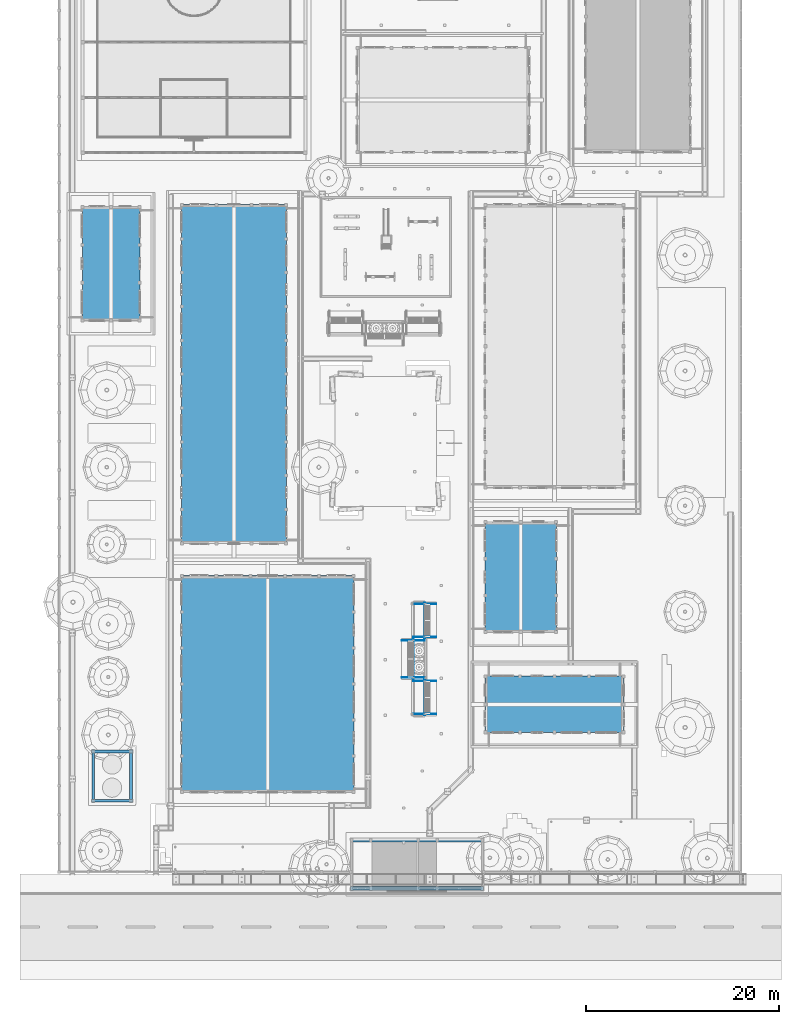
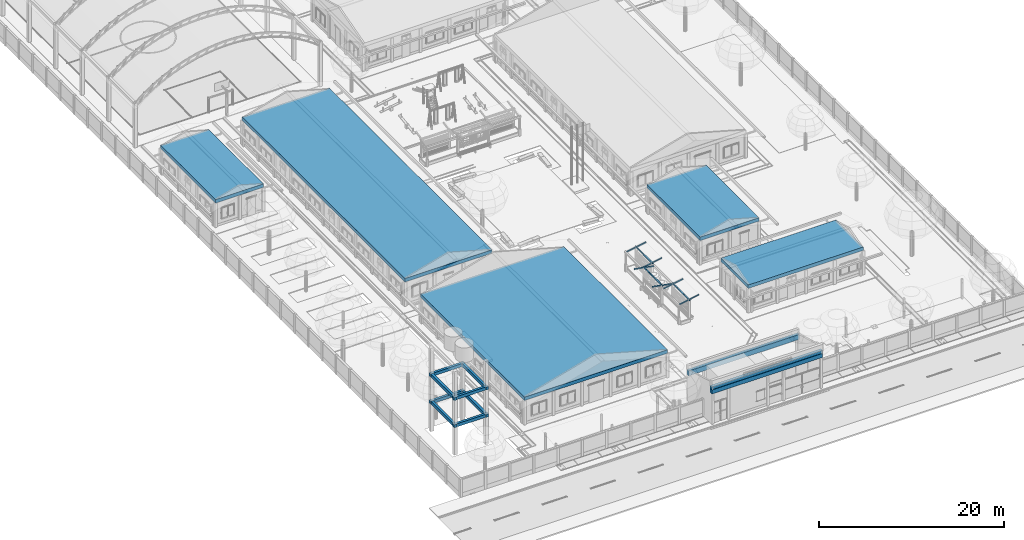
# One storey, part 15 of 177: 25 beams.
"""IFC4 building model written with IfcOpenShell, lengths in metres."""

from ifc_helpers import new_model, si_unit, origin, origin_with_axes, place, context, subcontext, project, spatial, triangles, element, save


model = new_model("IFC4")

# Units and contexts
model_context = context("Model", 3, precision=1e-05, world=origin_with_axes())
body_context = subcontext(model_context, "Body", "Model", "MODEL_VIEW")
ifc_project = project(units=[si_unit("LENGTHUNIT", "METRE"), si_unit("AREAUNIT", "SQUARE_METRE"), si_unit("VOLUMEUNIT", "CUBIC_METRE"), si_unit("PLANEANGLEUNIT", "RADIAN")], contexts=[model_context])

# Site, building, storey
site_placement = place(None, origin_with_axes())
site = spatial("IfcSite", under=ifc_project, at=site_placement, Name="Predio Los Mangos - Morales, San Martín", CompositionType="ELEMENT")
building_placement = place(site_placement, origin())
building = spatial("IfcBuilding", under=site, at=building_placement, Name="Hogar de Refugio Temporal", CompositionType="ELEMENT")
storey_placement = place(building_placement, origin())
storey = spatial("IfcBuildingStorey", under=building, at=storey_placement, Name="NIVEL 1 (NPT +0.00)", CompositionType="ELEMENT", Elevation=0.0)

# Beams
beam_1_placement = place(storey_placement, origin())
element("IfcBeam", 1, at=beam_1_placement, inside=storey, Name="E-01_viga", ObjectType="Viga", PredefinedType="BEAM", context=body_context, shape_type="Tessellation", body=[
    triangles([(13.76, 26.26, 3.3), (31.64, 26.26, 3.3), (31.64, 48.74, 3.3), (13.76, 48.74, 3.3), (13.76, 26.26, 3.75), (31.64, 26.26, 3.75), (31.64, 48.74, 3.75), (13.76, 48.74, 3.75)], [[1, 4, 3], [1, 3, 2], [5, 6, 7], [5, 7, 8], [1, 2, 6], [1, 6, 5], [2, 3, 7], [2, 7, 6], [3, 4, 8], [3, 8, 7], [4, 1, 5], [4, 5, 8]]),
])
beam_2_placement = place(storey_placement, origin())
element("IfcBeam", 2, at=beam_2_placement, inside=storey, Name="E-02_viga", ObjectType="Viga", PredefinedType="BEAM", context=body_context, shape_type="Tessellation", body=[
    triangles([(45.26, 42.86, 3.3), (52.64, 42.86, 3.3), (52.64, 54.34, 3.3), (45.26, 54.34, 3.3), (45.26, 42.86, 3.75), (52.64, 42.86, 3.75), (52.64, 54.34, 3.75), (45.26, 54.34, 3.75)], [[1, 4, 3], [1, 3, 2], [5, 6, 7], [5, 7, 8], [1, 2, 6], [1, 6, 5], [2, 3, 7], [2, 7, 6], [3, 4, 8], [3, 8, 7], [4, 1, 5], [4, 5, 8]]),
])
beam_3_placement = place(storey_placement, origin())
element("IfcBeam", 3, at=beam_3_placement, inside=storey, Name="E-03_viga", ObjectType="Viga", PredefinedType="BEAM", context=body_context, shape_type="Tessellation", body=[
    triangles([(45.26, 32.46, 3.3), (59.64, 32.46, 3.3), (59.64, 38.34, 3.3), (45.26, 38.34, 3.3), (45.26, 32.46, 3.75), (59.64, 32.46, 3.75), (59.64, 38.34, 3.75), (45.26, 38.34, 3.75)], [[1, 4, 3], [1, 3, 2], [5, 6, 7], [5, 7, 8], [1, 2, 6], [1, 6, 5], [2, 3, 7], [2, 7, 6], [3, 4, 8], [3, 8, 7], [4, 1, 5], [4, 5, 8]]),
])
beam_4_placement = place(storey_placement, origin())
element("IfcBeam", 4, at=beam_4_placement, inside=storey, Name="E-04_viga", ObjectType="Viga", PredefinedType="BEAM", context=body_context, shape_type="Tessellation", body=[
    triangles([(13.76, 52.06, 3.3), (24.64, 52.06, 3.3), (24.64, 87.24, 3.3), (13.76, 87.24, 3.3), (13.76, 52.06, 3.75), (24.64, 52.06, 3.75), (24.64, 87.24, 3.75), (13.76, 87.24, 3.75)], [[1, 4, 3], [1, 3, 2], [5, 6, 7], [5, 7, 8], [1, 2, 6], [1, 6, 5], [2, 3, 7], [2, 7, 6], [3, 4, 8], [3, 8, 7], [4, 1, 5], [4, 5, 8]]),
])
beam_5_placement = place(storey_placement, origin())
element("IfcBeam", 5, at=beam_5_placement, inside=storey, Name="E-09_viga", ObjectType="Viga", PredefinedType="BEAM", context=body_context, shape_type="Tessellation", body=[
    triangles([(3.46, 75.16, 3.3), (9.44, 75.16, 3.3), (9.44, 87.04, 3.3), (3.46, 87.04, 3.3), (3.46, 75.16, 3.75), (9.44, 75.16, 3.75), (9.44, 87.04, 3.75), (3.46, 87.04, 3.75)], [[1, 4, 3], [1, 3, 2], [5, 6, 7], [5, 7, 8], [1, 2, 6], [1, 6, 5], [2, 3, 7], [2, 7, 6], [3, 4, 8], [3, 8, 7], [4, 1, 5], [4, 5, 8]]),
])
beam_6_placement = place(storey_placement, origin())
element("IfcBeam", 6, at=beam_6_placement, inside=storey, Name="oe01_viga", ObjectType="Viga", PredefinedType="BEAM", context=body_context, shape_type="Tessellation", body=[
    triangles([(31.3, 16.1, 4.18), (45.1, 16.1, 4.18), (45.1, 16.5, 4.18), (31.3, 16.5, 4.18), (31.3, 16.1, 4.71), (45.1, 16.1, 4.71), (45.1, 16.5, 4.71), (31.3, 16.5, 4.71)], [[1, 4, 3], [1, 3, 2], [5, 6, 7], [5, 7, 8], [1, 2, 6], [1, 6, 5], [2, 3, 7], [2, 7, 6], [3, 4, 8], [3, 8, 7], [4, 1, 5], [4, 5, 8]]),
])
beam_7_placement = place(storey_placement, origin())
element("IfcBeam", 7, at=beam_7_placement, inside=storey, Name="oe01_cielo", ObjectType="Viga", PredefinedType="BEAM", context=body_context, shape_type="Tessellation", body=[
    triangles([(31.3, 16.15, 4.71), (45.1, 16.15, 4.71), (45.1, 16.5, 4.71), (31.3, 16.5, 4.71), (31.3, 16.15, 5.09), (45.1, 16.15, 5.09), (45.1, 16.5, 5.09), (31.3, 16.5, 5.09)], [[1, 4, 3], [1, 3, 2], [5, 6, 7], [5, 7, 8], [1, 2, 6], [1, 6, 5], [2, 3, 7], [2, 7, 6], [3, 4, 8], [3, 8, 7], [4, 1, 5], [4, 5, 8]]),
])
beam_8_placement = place(storey_placement, origin())
element("IfcBeam", 8, at=beam_8_placement, inside=storey, Name="oe01_viga_post", ObjectType="Viga", PredefinedType="BEAM", context=body_context, shape_type="Tessellation", body=[
    triangles([(31.3, 21.1, 3.55), (45.1, 21.1, 3.55), (45.1, 21.5, 3.55), (31.3, 21.5, 3.55), (31.3, 21.1, 4.19), (45.1, 21.1, 4.19), (45.1, 21.5, 4.19), (31.3, 21.5, 4.19)], [[1, 4, 3], [1, 3, 2], [5, 6, 7], [5, 7, 8], [1, 2, 6], [1, 6, 5], [2, 3, 7], [2, 7, 6], [3, 4, 8], [3, 8, 7], [4, 1, 5], [4, 5, 8]]),
])
beam_9_placement = place(storey_placement, origin())
element("IfcBeam", 9, at=beam_9_placement, inside=storey, Name="tanque_viga", ObjectType="Viga", PredefinedType="BEAM", context=body_context, shape_type="Tessellation", body=[
    triangles([(4.4, 25.25, 3.6), (8.7, 25.25, 3.6), (8.7, 25.55, 3.6), (4.4, 25.55, 3.6), (4.4, 25.25, 4.0), (8.7, 25.25, 4.0), (8.7, 25.55, 4.0), (4.4, 25.55, 4.0)], [[1, 4, 3], [1, 3, 2], [5, 6, 7], [5, 7, 8], [1, 2, 6], [1, 6, 5], [2, 3, 7], [2, 7, 6], [3, 4, 8], [3, 8, 7], [4, 1, 5], [4, 5, 8]]),
])
beam_10_placement = place(storey_placement, origin())
element("IfcBeam", 10, at=beam_10_placement, inside=storey, Name="tanque_viga", ObjectType="Viga", PredefinedType="BEAM", context=body_context, shape_type="Tessellation", body=[
    triangles([(4.4, 30.35, 3.6), (8.7, 30.35, 3.6), (8.7, 30.65, 3.6), (4.4, 30.65, 3.6), (4.4, 30.35, 4.0), (8.7, 30.35, 4.0), (8.7, 30.65, 4.0), (4.4, 30.65, 4.0)], [[1, 4, 3], [1, 3, 2], [5, 6, 7], [5, 7, 8], [1, 2, 6], [1, 6, 5], [2, 3, 7], [2, 7, 6], [3, 4, 8], [3, 8, 7], [4, 1, 5], [4, 5, 8]]),
])
beam_11_placement = place(storey_placement, origin())
element("IfcBeam", 11, at=beam_11_placement, inside=storey, Name="tanque_viga", ObjectType="Viga", PredefinedType="BEAM", context=body_context, shape_type="Tessellation", body=[
    triangles([(4.45, 25.2, 3.6), (4.75, 25.2, 3.6), (4.75, 30.7, 3.6), (4.45, 30.7, 3.6), (4.45, 25.2, 4.0), (4.75, 25.2, 4.0), (4.75, 30.7, 4.0), (4.45, 30.7, 4.0)], [[1, 4, 3], [1, 3, 2], [5, 6, 7], [5, 7, 8], [1, 2, 6], [1, 6, 5], [2, 3, 7], [2, 7, 6], [3, 4, 8], [3, 8, 7], [4, 1, 5], [4, 5, 8]]),
])
beam_12_placement = place(storey_placement, origin())
element("IfcBeam", 12, at=beam_12_placement, inside=storey, Name="tanque_viga", ObjectType="Viga", PredefinedType="BEAM", context=body_context, shape_type="Tessellation", body=[
    triangles([(8.35, 25.2, 3.6), (8.65, 25.2, 3.6), (8.65, 30.7, 3.6), (8.35, 30.7, 3.6), (8.35, 25.2, 4.0), (8.65, 25.2, 4.0), (8.65, 30.7, 4.0), (8.35, 30.7, 4.0)], [[1, 4, 3], [1, 3, 2], [5, 6, 7], [5, 7, 8], [1, 2, 6], [1, 6, 5], [2, 3, 7], [2, 7, 6], [3, 4, 8], [3, 8, 7], [4, 1, 5], [4, 5, 8]]),
])
beam_13_placement = place(storey_placement, origin())
element("IfcBeam", 13, at=beam_13_placement, inside=storey, Name="tanque_viga", ObjectType="Viga", PredefinedType="BEAM", context=body_context, shape_type="Tessellation", body=[
    triangles([(4.4, 25.25, 7.2), (8.7, 25.25, 7.2), (8.7, 25.55, 7.2), (4.4, 25.55, 7.2), (4.4, 25.25, 7.6), (8.7, 25.25, 7.6), (8.7, 25.55, 7.6), (4.4, 25.55, 7.6)], [[1, 4, 3], [1, 3, 2], [5, 6, 7], [5, 7, 8], [1, 2, 6], [1, 6, 5], [2, 3, 7], [2, 7, 6], [3, 4, 8], [3, 8, 7], [4, 1, 5], [4, 5, 8]]),
])
beam_14_placement = place(storey_placement, origin())
element("IfcBeam", 14, at=beam_14_placement, inside=storey, Name="tanque_viga", ObjectType="Viga", PredefinedType="BEAM", context=body_context, shape_type="Tessellation", body=[
    triangles([(4.4, 30.35, 7.2), (8.7, 30.35, 7.2), (8.7, 30.65, 7.2), (4.4, 30.65, 7.2), (4.4, 30.35, 7.6), (8.7, 30.35, 7.6), (8.7, 30.65, 7.6), (4.4, 30.65, 7.6)], [[1, 4, 3], [1, 3, 2], [5, 6, 7], [5, 7, 8], [1, 2, 6], [1, 6, 5], [2, 3, 7], [2, 7, 6], [3, 4, 8], [3, 8, 7], [4, 1, 5], [4, 5, 8]]),
])
beam_15_placement = place(storey_placement, origin())
element("IfcBeam", 15, at=beam_15_placement, inside=storey, Name="tanque_viga", ObjectType="Viga", PredefinedType="BEAM", context=body_context, shape_type="Tessellation", body=[
    triangles([(4.45, 25.2, 7.2), (4.75, 25.2, 7.2), (4.75, 30.7, 7.2), (4.45, 30.7, 7.2), (4.45, 25.2, 7.6), (4.75, 25.2, 7.6), (4.75, 30.7, 7.6), (4.45, 30.7, 7.6)], [[1, 4, 3], [1, 3, 2], [5, 6, 7], [5, 7, 8], [1, 2, 6], [1, 6, 5], [2, 3, 7], [2, 7, 6], [3, 4, 8], [3, 8, 7], [4, 1, 5], [4, 5, 8]]),
])
beam_16_placement = place(storey_placement, origin())
element("IfcBeam", 16, at=beam_16_placement, inside=storey, Name="tanque_viga", ObjectType="Viga", PredefinedType="BEAM", context=body_context, shape_type="Tessellation", body=[
    triangles([(8.35, 25.2, 7.2), (8.65, 25.2, 7.2), (8.65, 30.7, 7.2), (8.35, 30.7, 7.2), (8.35, 25.2, 7.6), (8.65, 25.2, 7.6), (8.65, 30.7, 7.6), (8.35, 30.7, 7.6)], [[1, 4, 3], [1, 3, 2], [5, 6, 7], [5, 7, 8], [1, 2, 6], [1, 6, 5], [2, 3, 7], [2, 7, 6], [3, 4, 8], [3, 8, 7], [4, 1, 5], [4, 5, 8]]),
])
beam_17_placement = place(storey_placement, origin())
element("IfcBeam", 17, at=beam_17_placement, inside=storey, Name="oc01_viga", ObjectType="Viga", PredefinedType="BEAM", context=body_context, shape_type="Tessellation", body=[
    triangles([(39.05, 34.255, 2.81), (39.05, 37.945, 2.81), (38.95, 37.945, 2.81), (38.95, 34.255, 2.81), (39.05, 34.255, 2.93), (39.05, 37.945, 2.93), (38.95, 37.945, 2.93), (38.95, 34.255, 2.93)], [[1, 4, 3], [1, 3, 2], [5, 6, 7], [5, 7, 8], [1, 2, 6], [1, 6, 5], [2, 3, 7], [2, 7, 6], [3, 4, 8], [3, 8, 7], [4, 1, 5], [4, 5, 8]]),
])
beam_18_placement = place(storey_placement, origin())
element("IfcBeam", 18, at=beam_18_placement, inside=storey, Name="oc01_correa", ObjectType="Viga", PredefinedType="BEAM", context=body_context, shape_type="Tessellation", body=[
    triangles([(37.8094, 34.36, 2.5909), (40.2094, 34.36, 3.0509), (40.2094, 34.41, 3.0509), (37.8094, 34.41, 2.5909), (37.7906, 34.36, 2.6891), (40.1906, 34.36, 3.1491), (40.1906, 34.41, 3.1491), (37.7906, 34.41, 2.6891)], [[1, 4, 3], [1, 3, 2], [5, 6, 7], [5, 7, 8], [1, 2, 6], [1, 6, 5], [2, 3, 7], [2, 7, 6], [3, 4, 8], [3, 8, 7], [4, 1, 5], [4, 5, 8]]),
])
beam_19_placement = place(storey_placement, origin())
element("IfcBeam", 19, at=beam_19_placement, inside=storey, Name="oc01_correa", ObjectType="Viga", PredefinedType="BEAM", context=body_context, shape_type="Tessellation", body=[
    triangles([(37.8094, 37.79, 2.5909), (40.2094, 37.79, 3.0509), (40.2094, 37.84, 3.0509), (37.8094, 37.84, 2.5909), (37.7906, 37.79, 2.6891), (40.1906, 37.79, 3.1491), (40.1906, 37.84, 3.1491), (37.7906, 37.84, 2.6891)], [[1, 4, 3], [1, 3, 2], [5, 6, 7], [5, 7, 8], [1, 2, 6], [1, 6, 5], [2, 3, 7], [2, 7, 6], [3, 4, 8], [3, 8, 7], [4, 1, 5], [4, 5, 8]]),
])
beam_20_placement = place(storey_placement, origin())
element("IfcBeam", 20, at=beam_20_placement, inside=storey, Name="oc01_viga", ObjectType="Viga", PredefinedType="BEAM", context=body_context, shape_type="Tessellation", body=[
    triangles([(37.85, 38.045, 2.81), (37.85, 42.155, 2.81), (37.75, 42.155, 2.81), (37.75, 38.045, 2.81), (37.85, 38.045, 2.93), (37.85, 42.155, 2.93), (37.75, 42.155, 2.93), (37.75, 38.045, 2.93)], [[1, 4, 3], [1, 3, 2], [5, 6, 7], [5, 7, 8], [1, 2, 6], [1, 6, 5], [2, 3, 7], [2, 7, 6], [3, 4, 8], [3, 8, 7], [4, 1, 5], [4, 5, 8]]),
])
beam_21_placement = place(storey_placement, origin())
element("IfcBeam", 21, at=beam_21_placement, inside=storey, Name="oc01_correa", ObjectType="Viga", PredefinedType="BEAM", context=body_context, shape_type="Tessellation", body=[
    triangles([(38.9906, 38.2, 2.5909), (36.5906, 38.2, 3.0509), (36.5906, 38.15, 3.0509), (38.9906, 38.15, 2.5909), (39.0094, 38.2, 2.6891), (36.6094, 38.2, 3.1491), (36.6094, 38.15, 3.1491), (39.0094, 38.15, 2.6891)], [[1, 4, 3], [1, 3, 2], [5, 6, 7], [5, 7, 8], [1, 2, 6], [1, 6, 5], [2, 3, 7], [2, 7, 6], [3, 4, 8], [3, 8, 7], [4, 1, 5], [4, 5, 8]]),
])
beam_22_placement = place(storey_placement, origin())
element("IfcBeam", 22, at=beam_22_placement, inside=storey, Name="oc01_correa", ObjectType="Viga", PredefinedType="BEAM", context=body_context, shape_type="Tessellation", body=[
    triangles([(38.9906, 42.05, 2.5909), (36.5906, 42.05, 3.0509), (36.5906, 42.0, 3.0509), (38.9906, 42.0, 2.5909), (39.0094, 42.05, 2.6891), (36.6094, 42.05, 3.1491), (36.6094, 42.0, 3.1491), (39.0094, 42.0, 2.6891)], [[1, 4, 3], [1, 3, 2], [5, 6, 7], [5, 7, 8], [1, 2, 6], [1, 6, 5], [2, 3, 7], [2, 7, 6], [3, 4, 8], [3, 8, 7], [4, 1, 5], [4, 5, 8]]),
])
beam_23_placement = place(storey_placement, origin())
element("IfcBeam", 23, at=beam_23_placement, inside=storey, Name="oc01_viga", ObjectType="Viga", PredefinedType="BEAM", context=body_context, shape_type="Tessellation", body=[
    triangles([(39.05, 42.255, 2.81), (39.05, 45.945, 2.81), (38.95, 45.945, 2.81), (38.95, 42.255, 2.81), (39.05, 42.255, 2.93), (39.05, 45.945, 2.93), (38.95, 45.945, 2.93), (38.95, 42.255, 2.93)], [[1, 4, 3], [1, 3, 2], [5, 6, 7], [5, 7, 8], [1, 2, 6], [1, 6, 5], [2, 3, 7], [2, 7, 6], [3, 4, 8], [3, 8, 7], [4, 1, 5], [4, 5, 8]]),
])
beam_24_placement = place(storey_placement, origin())
element("IfcBeam", 24, at=beam_24_placement, inside=storey, Name="oc01_correa", ObjectType="Viga", PredefinedType="BEAM", context=body_context, shape_type="Tessellation", body=[
    triangles([(37.8094, 42.36, 2.5909), (40.2094, 42.36, 3.0509), (40.2094, 42.41, 3.0509), (37.8094, 42.41, 2.5909), (37.7906, 42.36, 2.6891), (40.1906, 42.36, 3.1491), (40.1906, 42.41, 3.1491), (37.7906, 42.41, 2.6891)], [[1, 4, 3], [1, 3, 2], [5, 6, 7], [5, 7, 8], [1, 2, 6], [1, 6, 5], [2, 3, 7], [2, 7, 6], [3, 4, 8], [3, 8, 7], [4, 1, 5], [4, 5, 8]]),
])
beam_25_placement = place(storey_placement, origin())
element("IfcBeam", 25, at=beam_25_placement, inside=storey, Name="oc01_correa", ObjectType="Viga", PredefinedType="BEAM", context=body_context, shape_type="Tessellation", body=[
    triangles([(37.8094, 45.79, 2.5909), (40.2094, 45.79, 3.0509), (40.2094, 45.84, 3.0509), (37.8094, 45.84, 2.5909), (37.7906, 45.79, 2.6891), (40.1906, 45.79, 3.1491), (40.1906, 45.84, 3.1491), (37.7906, 45.84, 2.6891)], [[1, 4, 3], [1, 3, 2], [5, 6, 7], [5, 7, 8], [1, 2, 6], [1, 6, 5], [2, 3, 7], [2, 7, 6], [3, 4, 8], [3, 8, 7], [4, 1, 5], [4, 5, 8]]),
])

save(model, "model.ifc")
